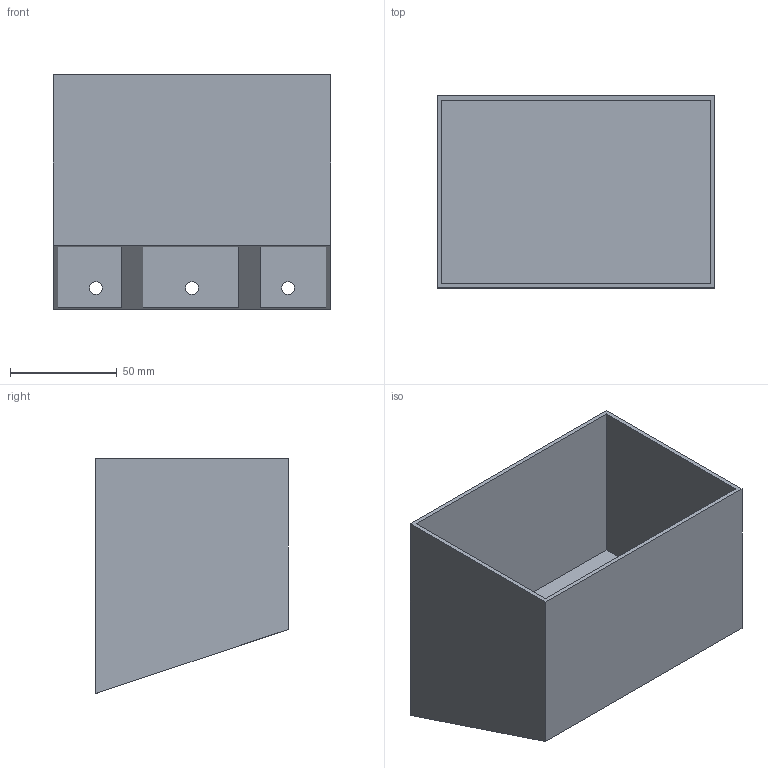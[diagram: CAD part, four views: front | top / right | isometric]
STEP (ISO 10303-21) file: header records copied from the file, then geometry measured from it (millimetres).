
FILE_DESCRIPTION(/* description */ (''),/* implementation_level */ '2;1');
FILE_NAME(/* name */ 'Waterholder.step',/* time_stamp */ '2023-06-06T06:58:56-04:00',/* author */ (''),/* organization */ (''),/* preprocessor_version */ 'ST-DEVELOPER v19.2',/* originating_system */ 'Autodesk Translation Framework v12.6.0.85',/* authorisation */ '');
FILE_SCHEMA (('AUTOMOTIVE_DESIGN { 1 0 10303 214 3 1 1 }'));
Length unit declared in the file: millimetre
Products named in the file (1): WATER HOLDER
Bounding box: 130 x 90 x 110 mm (x, y, z)
Volume: 129382.4 mm3; surface area: 109275.2 mm2
Topology: 1 solids, 1 shells, 29 faces, 69 edges, 46 vertices
Faces by surface type: plane 26, cylinder 3
Full cylindrical faces by diameter (mm): 6 x3
Entity records: 874 total; most frequent: CARTESIAN_POINT 145, ORIENTED_EDGE 138, DIRECTION 135, EDGE_CURVE 69, LINE 63, VECTOR 63, VERTEX_POINT 46, EDGE_LOOP 39
